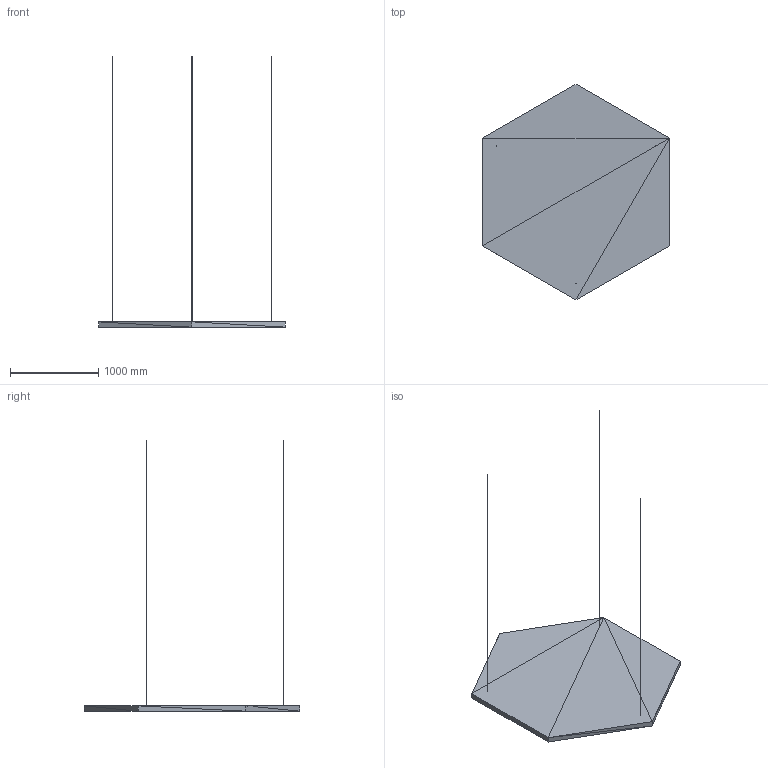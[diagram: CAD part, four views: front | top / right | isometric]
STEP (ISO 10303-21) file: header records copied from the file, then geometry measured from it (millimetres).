
FILE_DESCRIPTION(('ISINAC STEP AP214'),'2;1');
FILE_NAME('ISINAC_HEX.1220_60mm_COLGADO','2026-05-03T10:49:19',('ISINAC'),('www.isinac.com'),'ISINAC BIM Generator 1.0','','');
FILE_SCHEMA(('AUTOMOTIVE_DESIGN'));
Length unit declared in the file: millimetre
Products named in the file (1): ISINAC_HEX.1220_60mm_COLGADO
Bounding box: 2113.1 x 2440 x 3060 mm (x, y, z)
Surface area: 8254187.2 mm2 (no closed solid volume)
Topology: 0 solids, 80 shells, 80 faces, 240 edges, 240 vertices
Faces by surface type: plane 80
Entity records: 893 total; most frequent: CARTESIAN_POINT 320, DIRECTION 160, POLY_LOOP 80, FACE_OUTER_BOUND 80, AXIS2_PLACEMENT_3D 80, PLANE 80, FACE_SURFACE 80, CLOSED_SHELL 1
